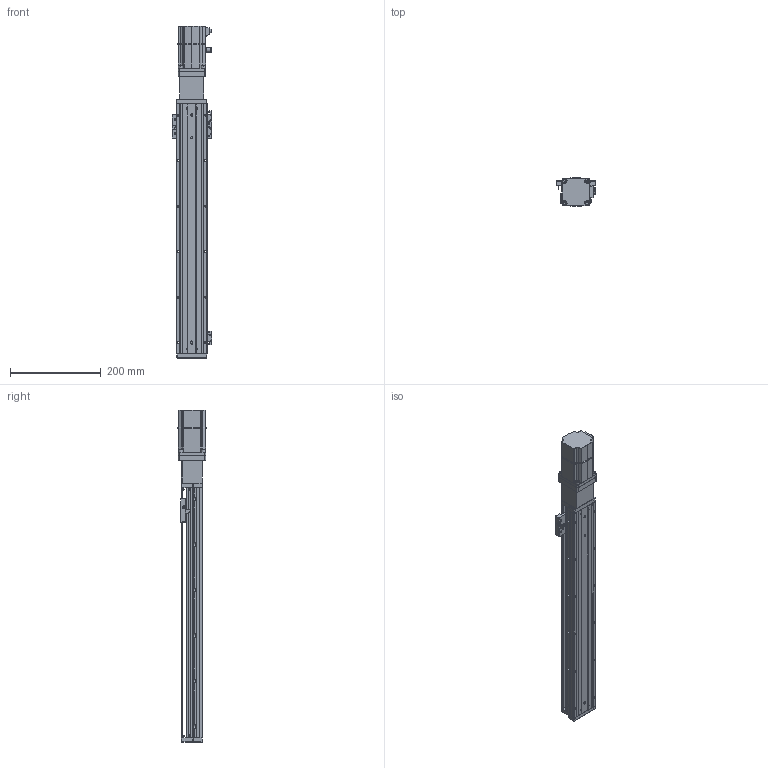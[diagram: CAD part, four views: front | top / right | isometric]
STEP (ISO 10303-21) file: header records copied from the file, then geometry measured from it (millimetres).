
FILE_DESCRIPTION (( 'STEP AP203' ), '1' );
FILE_NAME ('KTHA60-450-BC-M20-C4L.step', '2022-12-16T01:29:07', ( '微软用户' ), ( '微软中国' ), 'SwSTEP 2.0', 'SolidWorks 2020', '' );
FILE_SCHEMA (( 'CONFIG_CONTROL_DESIGN' ));
Length unit declared in the file: millimetre
Products named in the file (18): CTHA60-006-3_M20B; KTHA60-005; GBT77-2000M3-3; _X2_4E0983F1_X0_200W_1; GB¨uT 70.2-M3¡Á5_M3¡Á6; GBT 70.1-M3℅6; KTHA60-450-BC-M20-C4L; GBT 70.3-M3℅6; CTHA60-016; EE_SX911P_R; CTHA60-013; CTHA60-017; CTHA60-027; KTHA60-001_550; CTHA60-021; KTHA60-002; KTHA60-004; GBT 70.1-M4×16
Assembly tree (50 placements, depth 2):
  KTHA60-450-BC-M20-C4L
    KTHA60-001_550
    KTHA60-004
    KTHA60-005
    GB¨uT 70.2-M3¡Á5_M3¡Á6  x6
    GBT 70.3-M3℅6  x6
    EE_SX911P_R  x3
    CTHA60-017  x3
    CTHA60-021  x2
    GBT 70.1-M4×16  x8
    GBT77-2000M3-3  x6
    GBT 70.1-M3℅6  x6
    CTHA60-016  x2
    CTHA60-013
    CTHA60-027
    KTHA60-002
    CTHA60-006-3_M20B
    _X2_4E0983F1_X0_200W_1
Bounding box: 87.72 x 62.42 x 729.7 mm (x, y, z)
Volume: 1416545.6 mm3; surface area: 338823.2 mm2
Topology: 53 solids, 53 shells, 2295 faces, 5427 edges, 3320 vertices
Faces by surface type: plane 1244, cylinder 588, cone 298, torus 80, bspline 69, sphere 16
Entity records: 40185 total; most frequent: CARTESIAN_POINT 7792, DIRECTION 6268, ORIENTED_EDGE 6058, EDGE_CURVE 3029, AXIS2_PLACEMENT_3D 2149, VECTOR 1970, LINE 1970, VERTEX_POINT 1887
